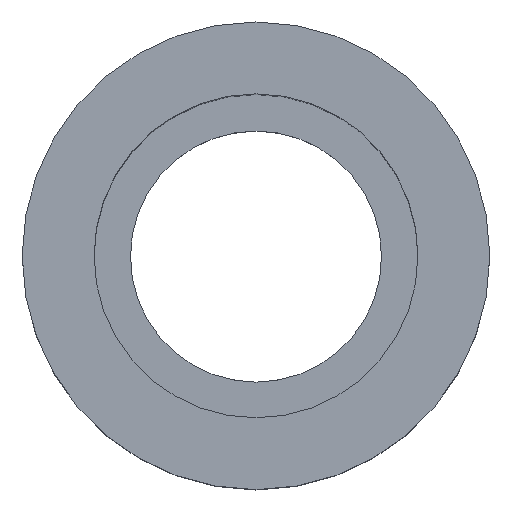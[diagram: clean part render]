
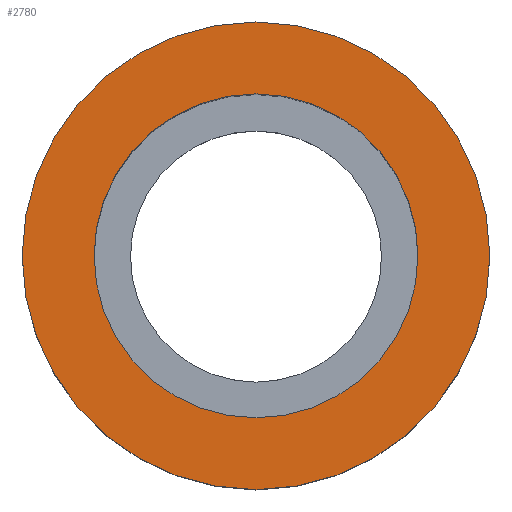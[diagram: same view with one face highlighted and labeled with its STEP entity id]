
A CAD part, top view. The second image highlights one B-rep face of the part: STEP entity #2780.
In plain terms, the highlighted planar face has unit normal (0, 0, 1).
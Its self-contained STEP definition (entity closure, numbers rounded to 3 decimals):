
#2390=CARTESIAN_POINT('',(122.353,21.957,-9.916)
);
#2400=DIRECTION('',(0.,0.,1.));
#2410=DIRECTION('',(0.,1.,0.));
#2420=AXIS2_PLACEMENT_3D('',#2390,#2400,#2410);
#2430=PLANE('',#2420);
#2440=CARTESIAN_POINT('',(122.353,36.757,-9.916)
);
#2450=DIRECTION('',(0.,0.,1.));
#2460=DIRECTION('',(1.,0.,0.));
#2470=AXIS2_PLACEMENT_3D('',#2440,#2450,#2460);
#2480=CIRCLE('',#2470,11.1);
#2490=CARTESIAN_POINT('',(111.253,36.757,-9.916)
);
#2500=VERTEX_POINT('',#2490);
#2510=CARTESIAN_POINT('',(133.453,36.757,-9.916)
);
#2520=VERTEX_POINT('',#2510);
#2530=EDGE_CURVE('',#2500,#2520,#2480,.T.);
#2540=ORIENTED_EDGE('',*,*,#2530,.F.);
#2550=EDGE_CURVE('',#2520,#2500,#2480,.T.);
#2560=ORIENTED_EDGE('',*,*,#2550,.F.);
#2570=EDGE_LOOP('',(#2560,#2540));
#2580=FACE_BOUND('',#2570,.T.);
#2590=CARTESIAN_POINT('',(122.353,36.757,-9.916)
);
#2600=DIRECTION('',(0.,0.,-1.));
#2610=DIRECTION('',(0.,1.,0.));
#2620=AXIS2_PLACEMENT_3D('',#2590,#2600,#2610);
#2630=CIRCLE('',#2620,16.025);
#2640=CARTESIAN_POINT('',(138.378,36.757,-9.916)
);
#2650=VERTEX_POINT('',#2640);
#2660=CARTESIAN_POINT('',(122.353,20.732,-9.916)
);
#2670=VERTEX_POINT('',#2660);
#2680=EDGE_CURVE('',#2650,#2670,#2630,.T.);
#2690=ORIENTED_EDGE('',*,*,#2680,.F.);
#2700=CARTESIAN_POINT('',(122.353,52.782,-9.916)
);
#2710=VERTEX_POINT('',#2700);
#2720=EDGE_CURVE('',#2670,#2710,#2630,.T.);
#2730=ORIENTED_EDGE('',*,*,#2720,.F.);
#2740=EDGE_CURVE('',#2710,#2650,#2630,.T.);
#2750=ORIENTED_EDGE('',*,*,#2740,.F.);
#2760=EDGE_LOOP('',(#2750,#2730,#2690));
#2770=FACE_OUTER_BOUND('',#2760,.T.);
#2780=ADVANCED_FACE('',(#2580,#2770),#2430,.T.);
